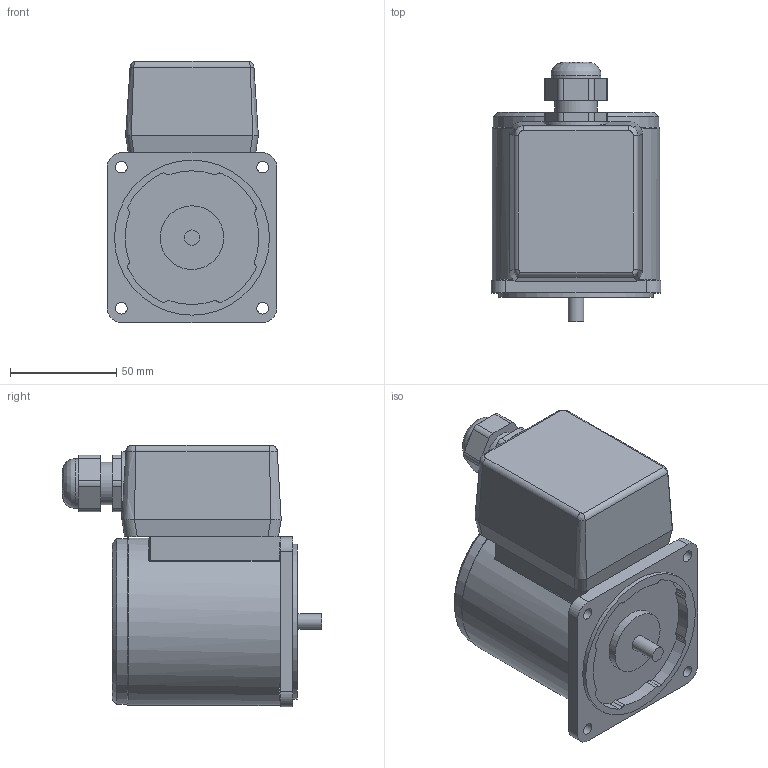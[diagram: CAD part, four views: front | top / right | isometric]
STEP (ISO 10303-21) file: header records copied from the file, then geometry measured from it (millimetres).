
FILE_DESCRIPTION((''),'2;1');
FILE_NAME('E:\2공장-도면\3D\표준형 3D(민규)\step file\K8IG25Nㅁ-T.stp','2014-11-12T17:42:50',('AHN'),(''),'Autodesk Inventor 2012','Autodesk Inventor 2012','');
FILE_SCHEMA(('CONFIG_CONTROL_DESIGN'));
Length unit declared in the file: millimetre
Products named in the file (3): K8IG25Nㅁ-T; TERMINAL BOX; K8IG25Nㅁ
Assembly tree (2 placements, depth 2):
  K8IG25Nㅁ-T
    TERMINAL BOX
    K8IG25Nㅁ
Bounding box: 80 x 122 x 123 mm (x, y, z)
Volume: 632135.2 mm3; surface area: 59652.4 mm2
Topology: 2 solids, 2 shells, 130 faces, 320 edges, 206 vertices
Faces by surface type: cylinder 68, plane 48, bspline 11, torus 2, cone 1
Full cylindrical faces by diameter (mm): 5.5 x4, 7.21 x1, 8 x4, 20 x1, 23.5 x1, 30 x1, 73 x1, 78 x1, 79 x1
Entity records: 4188 total; most frequent: CARTESIAN_POINT 1054, DIRECTION 667, ORIENTED_EDGE 596, EDGE_CURVE 298, AXIS2_PLACEMENT_3D 263, VERTEX_POINT 202, EDGE_LOOP 168, VECTOR 141
